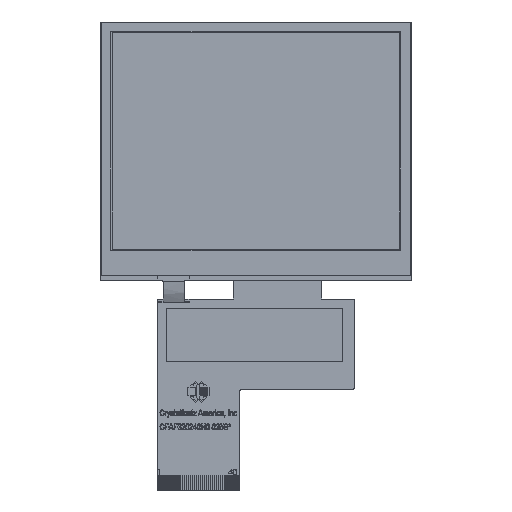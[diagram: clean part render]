
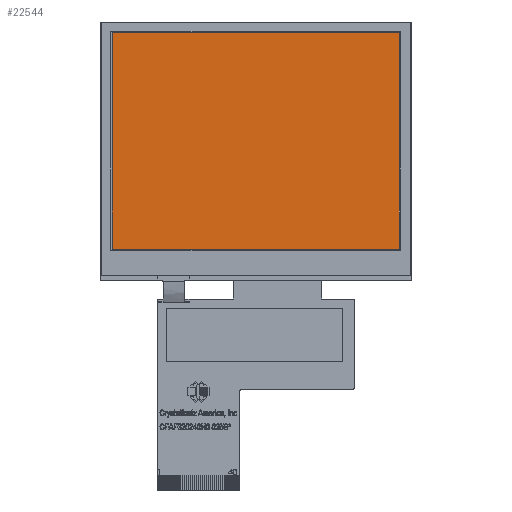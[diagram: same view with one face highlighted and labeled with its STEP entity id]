
A CAD part, top view. The second image highlights one B-rep face of the part: STEP entity #22544.
In plain terms, the highlighted planar face has unit normal (0, 0, 1).
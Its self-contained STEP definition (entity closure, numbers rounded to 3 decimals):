
#1690 = FACE_OUTER_BOUND ( 'NONE', #2815, .T. ) ;
#2249 = DIRECTION ( 'NONE',  ( 0., 0., 1. ) ) ;
#2815 = EDGE_LOOP ( 'NONE', ( #54097, #23093, #28077, #37440 ) ) ;
#5476 = VERTEX_POINT ( 'NONE', #50130 ) ;
#8194 = CARTESIAN_POINT ( 'NONE',  ( 0., 29.28, 4.4 ) ) ;
#8321 = DIRECTION ( 'NONE',  ( 0., -1., 0. ) ) ;
#9747 = EDGE_CURVE ( 'NONE', #19524, #5476, #42271, .T. ) ;
#10733 = PLANE ( 'NONE',  #36387 ) ;
#11454 = VECTOR ( 'NONE', #8321, 1000. ) ;
#11862 = LINE ( 'NONE', #34619, #29968 ) ;
#12317 = VERTEX_POINT ( 'NONE', #29562 ) ;
#15916 = CARTESIAN_POINT ( 'NONE',  ( 0., -24.28, 4.4 ) ) ;
#16867 = CARTESIAN_POINT ( 'NONE',  ( 35.44, 29.28, 4.4 ) ) ;
#19163 = DIRECTION ( 'NONE',  ( 1., 0., 0. ) ) ;
#19524 = VERTEX_POINT ( 'NONE', #37774 ) ;
#21303 = DIRECTION ( 'NONE',  ( 1., 0., 0. ) ) ;
#22002 = LINE ( 'NONE', #44526, #11454 ) ;
#22298 = VERTEX_POINT ( 'NONE', #16867 ) ;
#22544 = ADVANCED_FACE ( 'NONE', ( #1690 ), #10733, .T. ) ;
#23093 = ORIENTED_EDGE ( 'NONE', *, *, #9747, .F. ) ;
#25669 = EDGE_CURVE ( 'NONE', #5476, #12317, #11862, .T. ) ;
#27254 = VECTOR ( 'NONE', #21303, 1000. ) ;
#28077 = ORIENTED_EDGE ( 'NONE', *, *, #50364, .F. ) ;
#29562 = CARTESIAN_POINT ( 'NONE',  ( -35.64, 29.28, 4.4 ) ) ;
#29968 = VECTOR ( 'NONE', #34336, 1000. ) ;
#34336 = DIRECTION ( 'NONE',  ( 0., 1., 0. ) ) ;
#34619 = CARTESIAN_POINT ( 'NONE',  ( -35.64, 0., 4.4 ) ) ;
#36387 = AXIS2_PLACEMENT_3D ( 'NONE', #54828, #2249, #19163 ) ;
#37440 = ORIENTED_EDGE ( 'NONE', *, *, #40365, .F. ) ;
#37774 = CARTESIAN_POINT ( 'NONE',  ( 35.44, -24.28, 4.4 ) ) ;
#39228 = VECTOR ( 'NONE', #55961, 1000. ) ;
#40365 = EDGE_CURVE ( 'NONE', #12317, #22298, #48219, .T. ) ;
#42271 = LINE ( 'NONE', #15916, #39228 ) ;
#44526 = CARTESIAN_POINT ( 'NONE',  ( 35.44, 0., 4.4 ) ) ;
#48219 = LINE ( 'NONE', #8194, #27254 ) ;
#50130 = CARTESIAN_POINT ( 'NONE',  ( -35.64, -24.28, 4.4 ) ) ;
#50364 = EDGE_CURVE ( 'NONE', #22298, #19524, #22002, .T. ) ;
#54097 = ORIENTED_EDGE ( 'NONE', *, *, #25669, .F. ) ;
#54828 = CARTESIAN_POINT ( 'NONE',  ( 0., 0., 4.4 ) ) ;
#55961 = DIRECTION ( 'NONE',  ( -1., 0., 0. ) ) ;
